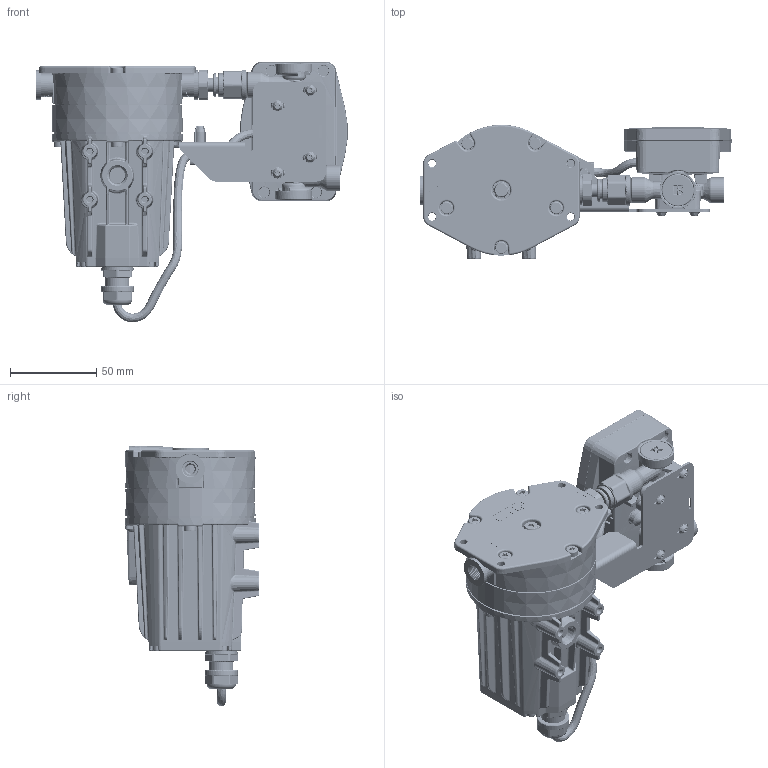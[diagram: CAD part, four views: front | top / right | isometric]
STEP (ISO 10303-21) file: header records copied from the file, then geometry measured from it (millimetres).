
FILE_DESCRIPTION((''),'2;1');
FILE_NAME('FMS-FC1-150-SCHRUMPF','2026-06-01T11:45:35',('DommenR'),('KNF Flodos AG, 6210 Sursee, Switzerland'),'CREO PARAMETRIC BY PTC INC, 2024401','CREO PARAMETRIC BY PTC INC, 2024401','');
FILE_SCHEMA(('AP242_MANAGED_MODEL_BASED_3D_ENGINEERING_MIM_LF { 1 0 10303 442 1 1 4 }'));
Length unit declared in the file: millimetre
Products named in the file (1): FMS-FC1-150-SCHRUMPF
Bounding box: 180.72 x 78 x 151.33 mm (x, y, z)
Volume: 564128 mm3; surface area: 179281.9 mm2
Topology: 41 solids, 41 shells, 6722 faces, 17530 edges, 10655 vertices
Faces by surface type: cylinder 2125, plane 1589, bspline 1495, torus 615, cone 452, sphere 349, extrusion 93, revolution 4
Entity records: 416882 total; most frequent: CARTESIAN_POINT 212804, ORIENTED_EDGE 34312, DIRECTION 27755, PRESENTATION_STYLE_ASSIGNMENT 17283, STYLED_ITEM 17283, CURVE_STYLE 17156, EDGE_CURVE 17156, AXIS2_PLACEMENT_3D 11147
